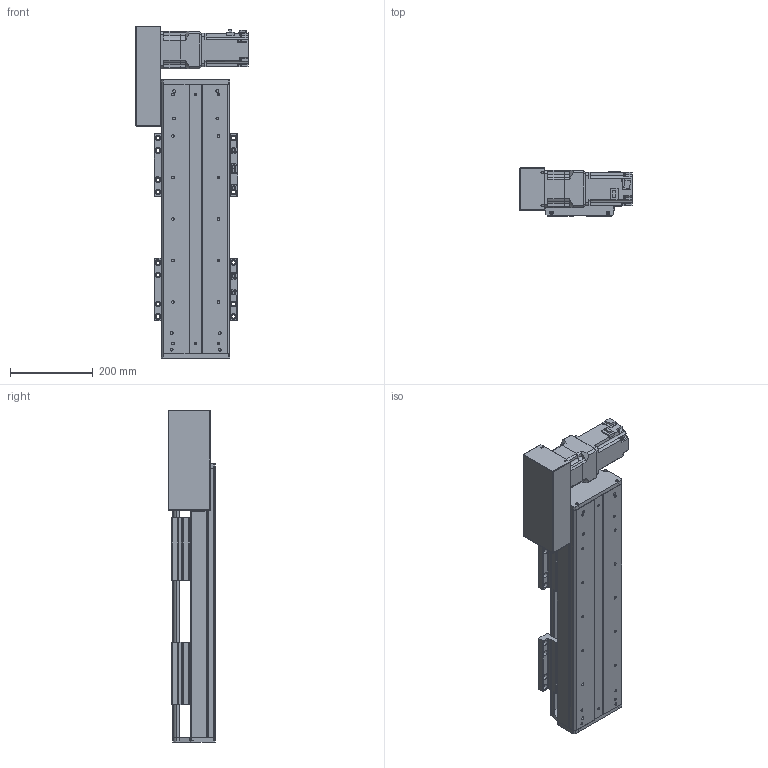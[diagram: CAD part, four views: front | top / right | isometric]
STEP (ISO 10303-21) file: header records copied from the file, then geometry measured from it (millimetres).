
FILE_DESCRIPTION(/* description */ (''),/* implementation_level */ '2;1');
FILE_NAME(/* name */ 'C:\Users\PC\Desktop\3D도면\STEP\DSB165-L7G-W0300-R.stp',/* time_stamp */ '2018-06-25T14:25:22+09:00',/* author */ ('PC'),/* organization */ (''),/* preprocessor_version */ 'ST-DEVELOPER v16.5',/* originating_system */ 'Autodesk Inventor 2017',/* authorisation */ '');
FILE_SCHEMA (('AUTOMOTIVE_DESIGN { 1 0 10303 214 3 1 1 }'));
Length unit declared in the file: millimetre
Products named in the file (12): DSB165-L; DSR165-BASE_S; hg-kr73_; ab0901-p0401300102; 11-DBS165 BELT COVER; DBS165-COVER; DBS165-COVER_1; DBS165-UP COVER; DBS165-TABLE(MSA20S); DSR126-SENSOR DOG; pm-y65_step; SENSOR BRACKET(EE-SX674A)
Assembly tree (16 placements, depth 2):
  DSB165-L
    DSR165-BASE_S
    hg-kr73_
    ab0901-p0401300102
    11-DBS165 BELT COVER
    DBS165-COVER
    DBS165-COVER_1
    DBS165-UP COVER
    DBS165-TABLE(MSA20S)  x2
    DSR126-SENSOR DOG
    pm-y65_step  x3
    SENSOR BRACKET(EE-SX674A)  x3
Bounding box: 270 x 115 x 800 mm (x, y, z)
Volume: 5669023.6 mm3; surface area: 1292895 mm2
Topology: 17 solids, 22 shells, 1635 faces, 4397 edges, 2906 vertices
Faces by surface type: plane 926, cylinder 603, cone 94, sphere 8, torus 4
Full cylindrical faces by diameter (mm): 2.459 x20, 3.5 x6, 4.134 x34, 4.5 x18, 5 x27, 5.5 x36, 5.9 x4, 6 x8, 6.6 x14, 6.647 x30, 6.8 x1, 7 x4, 7.6 x4, 8 x1, 8.4 x1, 8.5 x24, 8.7 x1, 9.5 x32, 11 x6, 14 x16, 19 x1, 22 x1, 24 x1, 25 x1, 28 x1, 67 x1, 70 x2, 80 x1
Entity records: 34829 total; most frequent: DIRECTION 6140, CARTESIAN_POINT 5983, ORIENTED_EDGE 5470, EDGE_CURVE 2740, AXIS2_PLACEMENT_3D 2240, VERTEX_POINT 1945, EDGE_LOOP 1667, LINE 1660
